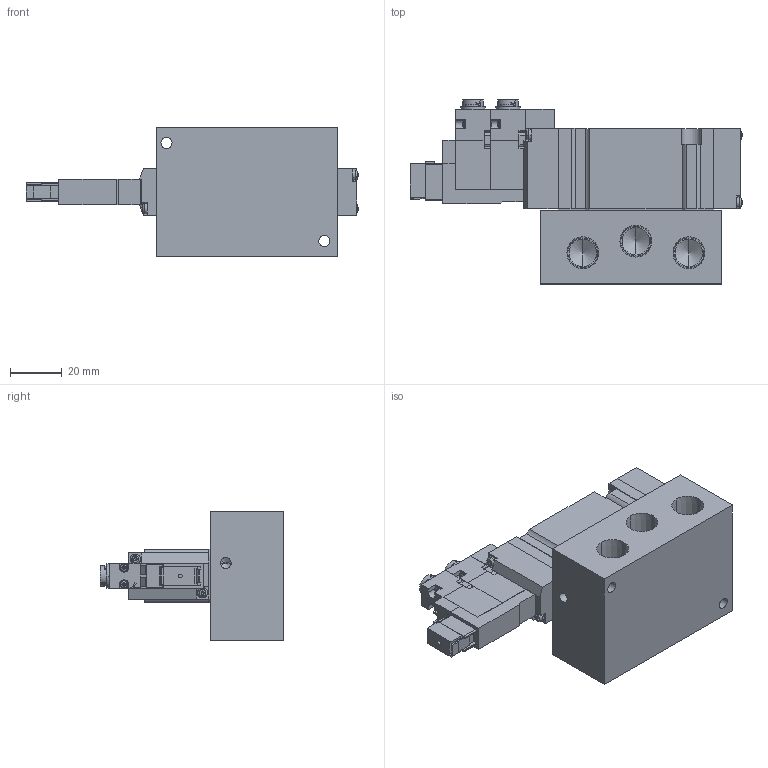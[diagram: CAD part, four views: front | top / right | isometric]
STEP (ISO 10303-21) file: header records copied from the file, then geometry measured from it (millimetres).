
FILE_DESCRIPTION (( 'STEP AP203' ), '1' );
FILE_NAME ('A20GD25#-#-#-E.STEP', '2016-02-04T02:43:42', ( 'Sam Lin' ), ( '' ), 'SwSTEP 2.0', 'SolidWorks 2013', '' );
FILE_SCHEMA (( 'CONFIG_CONTROL_DESIGN' ));
Length unit declared in the file: metre
Products named in the file (18): DC24-A05G-2; A20P-3; DC24-A05G-3; mark-ADEX-A20; A20G-3; DC24-A05F-2; A05RS25-3; A20GD25#-#-#-E; A20G-1; A05RS25-4; ISO 7045 - M1.6 x 10; A20P底座; A05RS25-5; A20P-1; A05RS25-6; A20P-2; DC24-A05F-1; ISO 7045 - M2.5 x 8-D4
Assembly tree (29 placements, depth 2):
  A20GD25#-#-#-E
    A20P底座
    A20P-1
    A20P-2
    ISO 7045 - M2.5 x 8-D4  x4
    A20P-3
    mark-ADEX-A20
    A05RS25-3  x2
    A05RS25-4  x2
    ISO 7045 - M1.6 x 10  x4
    A05RS25-5  x2
    A05RS25-6  x4
    DC24-A05F-1
    DC24-A05G-2
    DC24-A05G-3
    DC24-A05F-2
    A20G-1
    A20G-3
Bounding box: 128.3 x 71.1 x 50 mm (x, y, z)
Volume: 147412.5 mm3; surface area: 42429.6 mm2
Topology: 37 solids, 37 shells, 923 faces, 2363 edges, 1511 vertices
Faces by surface type: plane 596, cylinder 171, cone 96, bspline 60
Entity records: 20217 total; most frequent: CARTESIAN_POINT 4935, ORIENTED_EDGE 2712, DIRECTION 2668, EDGE_CURVE 1356, VECTOR 952, LINE 952, VERTEX_POINT 892, AXIS2_PLACEMENT_3D 858
